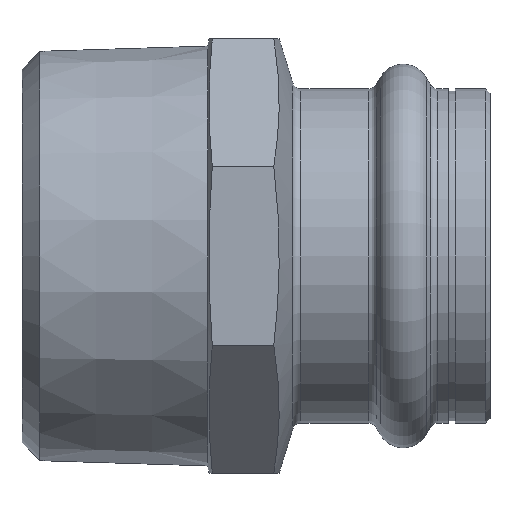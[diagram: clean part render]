
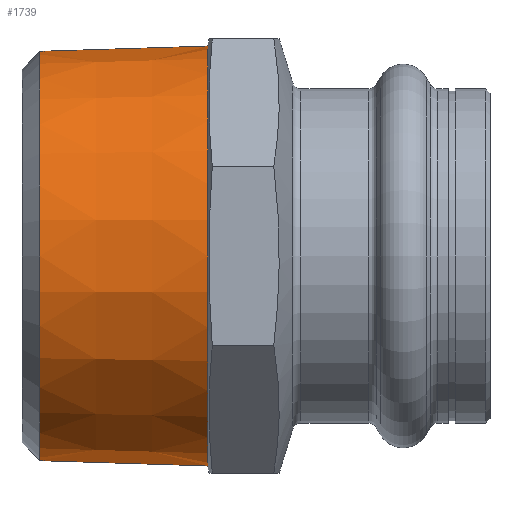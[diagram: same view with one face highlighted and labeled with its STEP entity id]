
A CAD part, left-side view. The second image highlights one B-rep face of the part: STEP entity #1739.
In plain terms, the highlighted conical face has half-angle 1.78 degrees and reference radius 24.172 mm.
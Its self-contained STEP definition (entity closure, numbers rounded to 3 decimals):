
#11 = AXIS2_PLACEMENT_3D ( 'NONE', #64, #948, #1034 ) ;
#61 = CONICAL_SURFACE ( 'NONE', #775, 24.172, 0.031 ) ;
#64 = CARTESIAN_POINT ( 'NONE',  ( 0., 51.829, 0. ) ) ;
#163 = DIRECTION ( 'NONE',  ( 0., -1., -0.031 ) ) ;
#203 = CARTESIAN_POINT ( 'NONE',  ( 0., 32.5, 0. ) ) ;
#234 = DIRECTION ( 'NONE',  ( 0., -1., 0. ) ) ;
#342 = CIRCLE ( 'NONE', #11, 23.571 ) ;
#432 = DIRECTION ( 'NONE',  ( 0., 0., -1. ) ) ;
#460 = CARTESIAN_POINT ( 'NONE',  ( 0., 32.5, 24.172 ) ) ;
#524 = VERTEX_POINT ( 'NONE', #1199 ) ;
#527 = DIRECTION ( 'NONE',  ( 0., -1., 0.031 ) ) ;
#530 = EDGE_CURVE ( 'NONE', #817, #1754, #342, .T. ) ;
#637 = EDGE_CURVE ( 'NONE', #1153, #524, #979, .T. ) ;
#664 = EDGE_CURVE ( 'NONE', #1754, #524, #1744, .T. ) ;
#775 = AXIS2_PLACEMENT_3D ( 'NONE', #203, #924, #432 ) ;
#814 = AXIS2_PLACEMENT_3D ( 'NONE', #1378, #234, #1516 ) ;
#817 = VERTEX_POINT ( 'NONE', #1563 ) ;
#873 = ORIENTED_EDGE ( 'NONE', *, *, #1332, .F. ) ;
#895 = FACE_OUTER_BOUND ( 'NONE', #1215, .T. ) ;
#924 = DIRECTION ( 'NONE',  ( 0., -1., 0. ) ) ;
#948 = DIRECTION ( 'NONE',  ( 0., -1., 0. ) ) ;
#970 = CARTESIAN_POINT ( 'NONE',  ( 0., 32.5, -24.172 ) ) ;
#979 = CIRCLE ( 'NONE', #814, 24.172 ) ;
#1034 = DIRECTION ( 'NONE',  ( 0., 0., -1. ) ) ;
#1086 = ORIENTED_EDGE ( 'NONE', *, *, #664, .T. ) ;
#1153 = VERTEX_POINT ( 'NONE', #460 ) ;
#1199 = CARTESIAN_POINT ( 'NONE',  ( 0., 32.5, -24.172 ) ) ;
#1215 = EDGE_LOOP ( 'NONE', ( #873, #1637, #1086, #1816 ) ) ;
#1286 = CARTESIAN_POINT ( 'NONE',  ( 0., 51.829, -23.571 ) ) ;
#1299 = VECTOR ( 'NONE', #163, 1000. ) ;
#1330 = VECTOR ( 'NONE', #527, 1000. ) ;
#1332 = EDGE_CURVE ( 'NONE', #817, #1153, #1695, .T. ) ;
#1378 = CARTESIAN_POINT ( 'NONE',  ( 0., 32.5, 0. ) ) ;
#1516 = DIRECTION ( 'NONE',  ( 0., 0., -1. ) ) ;
#1563 = CARTESIAN_POINT ( 'NONE',  ( 0., 51.829, 23.571 ) ) ;
#1613 = CARTESIAN_POINT ( 'NONE',  ( 0., 32.5, 24.172 ) ) ;
#1637 = ORIENTED_EDGE ( 'NONE', *, *, #530, .T. ) ;
#1695 = LINE ( 'NONE', #1613, #1330 ) ;
#1739 = ADVANCED_FACE ( 'NONE', ( #895 ), #61, .T. ) ;
#1744 = LINE ( 'NONE', #970, #1299 ) ;
#1754 = VERTEX_POINT ( 'NONE', #1286 ) ;
#1816 = ORIENTED_EDGE ( 'NONE', *, *, #637, .F. ) ;
